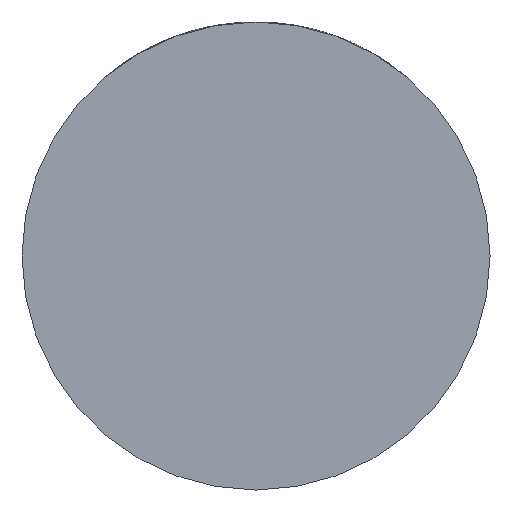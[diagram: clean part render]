
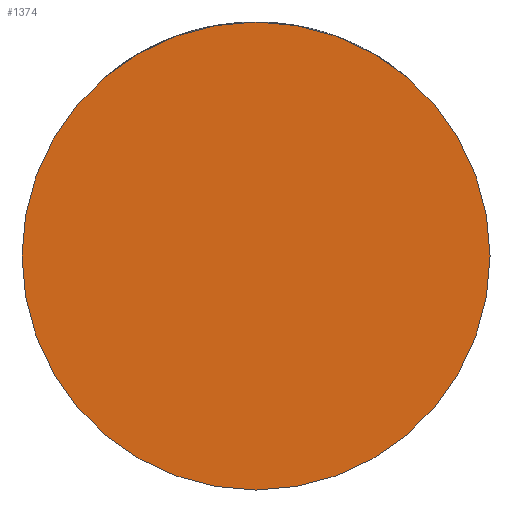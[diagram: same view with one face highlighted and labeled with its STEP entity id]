
A CAD part, front view. The second image highlights one B-rep face of the part: STEP entity #1374.
In plain terms, the highlighted planar face has unit normal (0, -1, 0).
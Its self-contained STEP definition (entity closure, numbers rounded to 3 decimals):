
#2 = CARTESIAN_POINT ( 'NONE',  ( -39., -36., 0. ) ) ;
#680 = DIRECTION ( 'NONE',  ( 1., 0., 0. ) ) ;
#967 = ORIENTED_EDGE ( 'NONE', *, *, #3940, .T. ) ;
#1016 = DIRECTION ( 'NONE',  ( 1., 0., 0. ) ) ;
#1069 = CARTESIAN_POINT ( 'NONE',  ( 39., -36., 0. ) ) ;
#1374 = ADVANCED_FACE ( 'NONE', ( #4263 ), #3571, .T. ) ;
#1437 = VERTEX_POINT ( 'NONE', #1069 ) ;
#2158 = CIRCLE ( 'NONE', #2228, 39. ) ;
#2163 = VERTEX_POINT ( 'NONE', #2 ) ;
#2188 = DIRECTION ( 'NONE',  ( 1., 0., 0. ) ) ;
#2228 = AXIS2_PLACEMENT_3D ( 'NONE', #4492, #3827, #680 ) ;
#2344 = AXIS2_PLACEMENT_3D ( 'NONE', #3803, #4190, #1016 ) ;
#2901 = EDGE_LOOP ( 'NONE', ( #3240, #967 ) ) ;
#3084 = CIRCLE ( 'NONE', #2344, 39. ) ;
#3166 = DIRECTION ( 'NONE',  ( 0., -1., 0. ) ) ;
#3240 = ORIENTED_EDGE ( 'NONE', *, *, #4239, .T. ) ;
#3403 = AXIS2_PLACEMENT_3D ( 'NONE', #4199, #3166, #2188 ) ;
#3571 = PLANE ( 'NONE',  #3403 ) ;
#3803 = CARTESIAN_POINT ( 'NONE',  ( 0., -36., 0. ) ) ;
#3827 = DIRECTION ( 'NONE',  ( 0., -1., 0. ) ) ;
#3940 = EDGE_CURVE ( 'NONE', #1437, #2163, #2158, .T. ) ;
#4190 = DIRECTION ( 'NONE',  ( 0., -1., 0. ) ) ;
#4199 = CARTESIAN_POINT ( 'NONE',  ( 0., -36., 0. ) ) ;
#4239 = EDGE_CURVE ( 'NONE', #2163, #1437, #3084, .T. ) ;
#4263 = FACE_OUTER_BOUND ( 'NONE', #2901, .T. ) ;
#4492 = CARTESIAN_POINT ( 'NONE',  ( 0., -36., 0. ) ) ;
